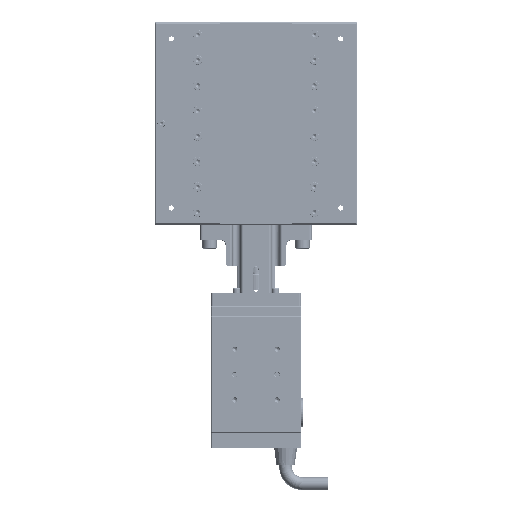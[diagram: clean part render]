
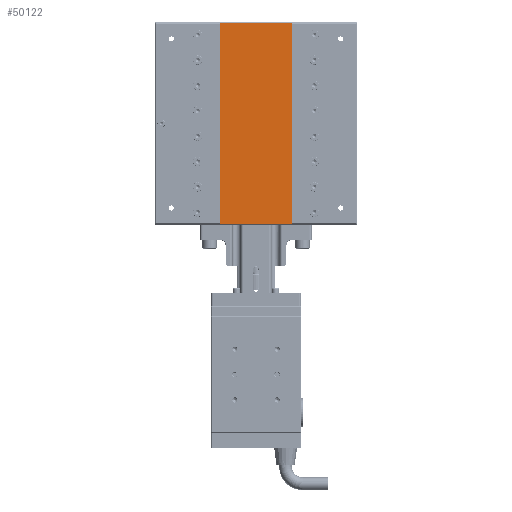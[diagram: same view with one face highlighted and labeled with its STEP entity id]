
A CAD part, front view. The second image highlights one B-rep face of the part: STEP entity #50122.
In plain terms, the highlighted planar face has unit normal (0, -1, 0).
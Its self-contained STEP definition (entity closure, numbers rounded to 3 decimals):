
#7479 = CARTESIAN_POINT ( 'NONE',  ( -21., 0.3, 60. ) ) ;
#11469 = AXIS2_PLACEMENT_3D ( 'NONE', #76865, #100492, #29967 ) ;
#17171 = VERTEX_POINT ( 'NONE', #99881 ) ;
#18177 = PLANE ( 'NONE',  #11469 ) ;
#29967 = DIRECTION ( 'NONE',  ( 0., 0., 1. ) ) ;
#32787 = LINE ( 'NONE', #128725, #36446 ) ;
#36446 = VECTOR ( 'NONE', #140558, 1000. ) ;
#42618 = DIRECTION ( 'NONE',  ( -1., 0., 0. ) ) ;
#50122 = ADVANCED_FACE ( 'NONE', ( #82463 ), #18177, .F. ) ;
#51958 = VECTOR ( 'NONE', #42618, 1000. ) ;
#54455 = CARTESIAN_POINT ( 'NONE',  ( 21., 0.3, -59.3 ) ) ;
#65787 = LINE ( 'NONE', #7479, #152274 ) ;
#67796 = ORIENTED_EDGE ( 'NONE', *, *, #95600, .F. ) ;
#76865 = CARTESIAN_POINT ( 'NONE',  ( 21., 0.3, 60. ) ) ;
#81122 = DIRECTION ( 'NONE',  ( 1., 0., 0. ) ) ;
#82463 = FACE_OUTER_BOUND ( 'NONE', #120244, .T. ) ;
#83298 = LINE ( 'NONE', #54455, #51958 ) ;
#87062 = VERTEX_POINT ( 'NONE', #131596 ) ;
#89284 = DIRECTION ( 'NONE',  ( 0., 0., 1. ) ) ;
#94097 = ORIENTED_EDGE ( 'NONE', *, *, #139457, .F. ) ;
#95600 = EDGE_CURVE ( 'NONE', #114324, #17171, #83298, .T. ) ;
#99881 = CARTESIAN_POINT ( 'NONE',  ( -21., 0.3, -59.3 ) ) ;
#100492 = DIRECTION ( 'NONE',  ( 0., 1., 0. ) ) ;
#101895 = EDGE_CURVE ( 'NONE', #87062, #114324, #32787, .T. ) ;
#104923 = VERTEX_POINT ( 'NONE', #126925 ) ;
#110902 = VECTOR ( 'NONE', #81122, 1000. ) ;
#114324 = VERTEX_POINT ( 'NONE', #152402 ) ;
#118734 = ORIENTED_EDGE ( 'NONE', *, *, #101895, .F. ) ;
#120244 = EDGE_LOOP ( 'NONE', ( #94097, #67796, #118734, #121504 ) ) ;
#121504 = ORIENTED_EDGE ( 'NONE', *, *, #133362, .F. ) ;
#126925 = CARTESIAN_POINT ( 'NONE',  ( -21., 0.3, 59.3 ) ) ;
#128725 = CARTESIAN_POINT ( 'NONE',  ( 21., 0.3, 60. ) ) ;
#131596 = CARTESIAN_POINT ( 'NONE',  ( 21., 0.3, 59.3 ) ) ;
#133362 = EDGE_CURVE ( 'NONE', #104923, #87062, #142128, .T. ) ;
#139457 = EDGE_CURVE ( 'NONE', #17171, #104923, #65787, .T. ) ;
#139646 = CARTESIAN_POINT ( 'NONE',  ( 21., 0.3, 59.3 ) ) ;
#140558 = DIRECTION ( 'NONE',  ( 0., 0., -1. ) ) ;
#142128 = LINE ( 'NONE', #139646, #110902 ) ;
#152274 = VECTOR ( 'NONE', #89284, 1000. ) ;
#152402 = CARTESIAN_POINT ( 'NONE',  ( 21., 0.3, -59.3 ) ) ;
